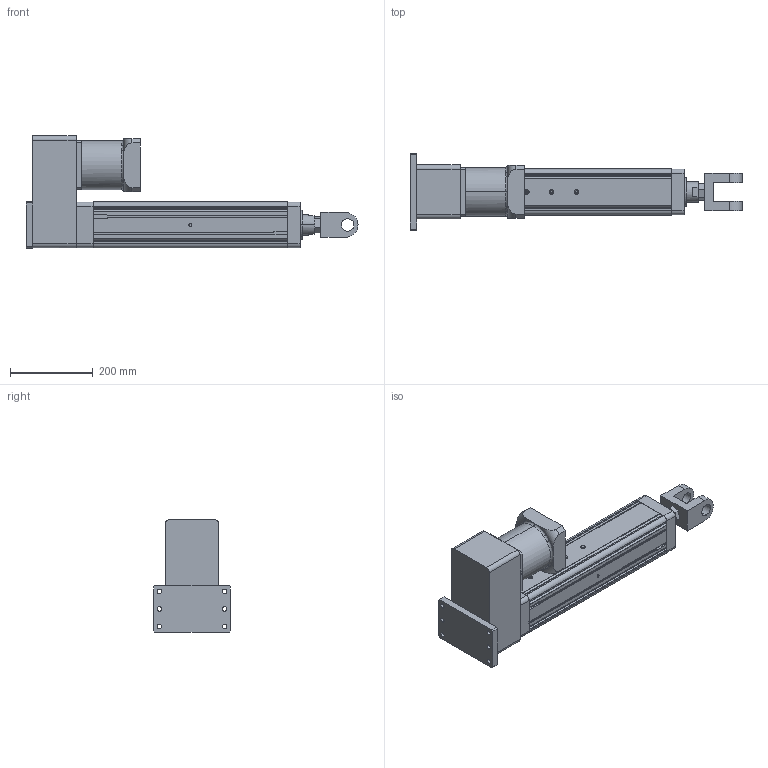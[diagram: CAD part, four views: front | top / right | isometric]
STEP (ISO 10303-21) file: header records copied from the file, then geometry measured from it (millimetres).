
FILE_DESCRIPTION (( 'STEP AP203' ), '1' );
FILE_NAME ('YRJ110-L300-H4K4.STEP', '2020-01-06T01:43:43', ( 'User' ), ( 'China' ), 'SwSTEP 2.0', 'SolidWorks 2016', '' );
FILE_SCHEMA (( 'CONFIG_CONTROL_DESIGN' ));
Length unit declared in the file: millimetre
Products named in the file (8): YRJ110-L300-H4K4; 095-100俴最倰第; H5-110-1; 萇儂碟-110; K4-110; H3-110-2; H4-110; 120遺1500W珨撰熬厒儂
Assembly tree (7 placements, depth 2):
  YRJ110-L300-H4K4
    095-100俴最倰第
    H5-110-1
    萇儂碟-110
    K4-110
    H3-110-2
    H4-110
    120遺1500W珨撰熬厒儂
Bounding box: 802 x 185 x 271 mm (x, y, z)
Volume: 8910457 mm3; surface area: 867760.1 mm2
Topology: 7 solids, 7 shells, 340 faces, 919 edges, 589 vertices
Faces by surface type: plane 174, cylinder 128, cone 29, torus 5, bspline 4
Entity records: 11853 total; most frequent: CARTESIAN_POINT 2306, DIRECTION 1845, ORIENTED_EDGE 1806, EDGE_CURVE 903, AXIS2_PLACEMENT_3D 634, VERTEX_POINT 589, VECTOR 577, LINE 577
